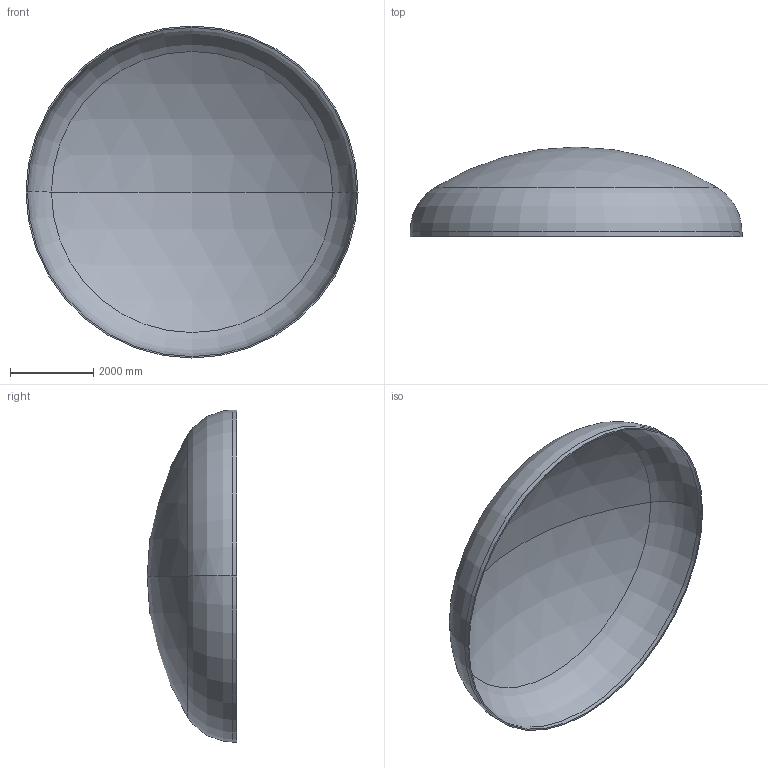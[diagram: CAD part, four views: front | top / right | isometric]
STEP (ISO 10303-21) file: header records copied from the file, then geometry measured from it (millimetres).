
FILE_DESCRIPTION (( 'STEP AP203' ), '1' );
FILE_NAME ('DIN 28013 Korbbogenform_-_Boden DIN 28013 - 8000 x 110 - I - s=34.step', '2016-07-04T11:00:41', ( '' ), ( '' ), 'SwSTEP 2.0', 'SolidWorks 2013', '' );
FILE_SCHEMA (( 'CONFIG_CONTROL_DESIGN' ));
Length unit declared in the file: millimetre
Products named in the file (1): DIN 28013 Korbbogenform_-_Boden DIN 28013 - 8000 x 110 - I - s=34
Bounding box: 8000 x 2157.29 x 8000 mm (x, y, z)
Volume: 2446679158.2 mm3; surface area: 144775548.5 mm2
Topology: 1 solids, 1 shells, 13 faces, 24 edges, 14 vertices
Faces by surface type: torus 4, cylinder 4, sphere 4, plane 1
Entity records: 407 total; most frequent: DIRECTION 72, CARTESIAN_POINT 52, ORIENTED_EDGE 48, AXIS2_PLACEMENT_3D 34, EDGE_CURVE 24, CIRCLE 20, EDGE_LOOP 14, VERTEX_POINT 14
